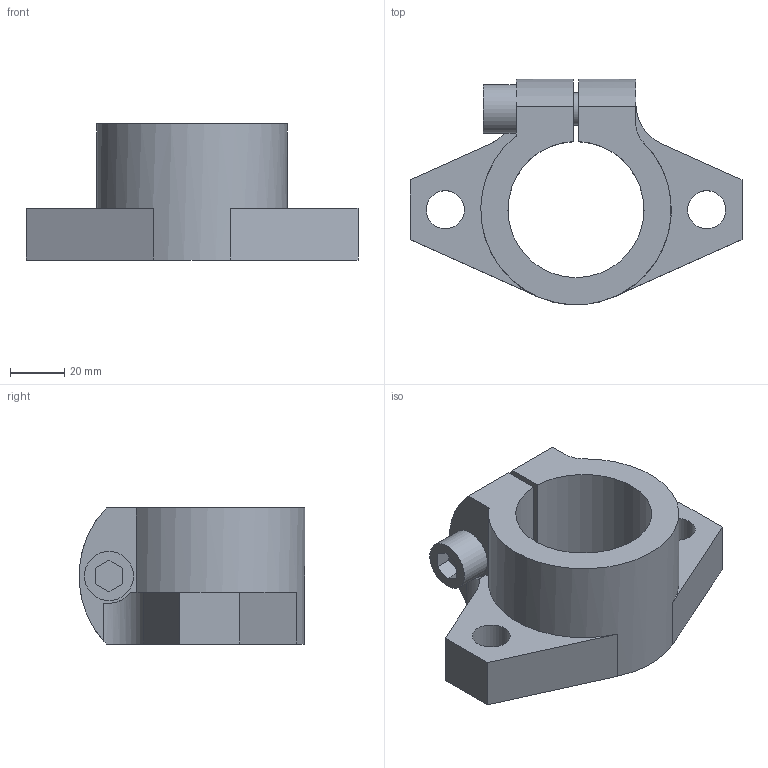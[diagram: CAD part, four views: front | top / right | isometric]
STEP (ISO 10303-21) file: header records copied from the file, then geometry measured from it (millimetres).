
FILE_DESCRIPTION(('STEP AP203'),'1');
FILE_NAME('//192.168.1.1/share/s-4 技術開発/s-4-14_個人別フォルダ/橋詰/09_CAD_DATA/3D/HP用/3Ｄモデル/SNF/SNF-50A.step','2021-09-16T23:50:19',(' '),(' '),'Spatial InterOp 3D',' ',' ');
FILE_SCHEMA(('CONFIG_CONTROL_DESIGN'));
Length unit declared in the file: millimetre
Products named in the file (2): 1; 2
Bounding box: 122 x 82.89 x 50 mm (x, y, z)
Volume: 156310.3 mm3; surface area: 37529.1 mm2
Topology: 2 solids, 2 shells, 42 faces, 109 edges, 73 vertices
Faces by surface type: plane 26, cylinder 15, cone 1
Full cylindrical faces by diameter (mm): 10.25 x1, 12 x2, 14 x3, 18 x1
Entity records: 1373 total; most frequent: CARTESIAN_POINT 264, DIRECTION 213, ORIENTED_EDGE 196, EDGE_CURVE 98, AXIS2_PLACEMENT_3D 75, VERTEX_POINT 70, LINE 63, VECTOR 63
